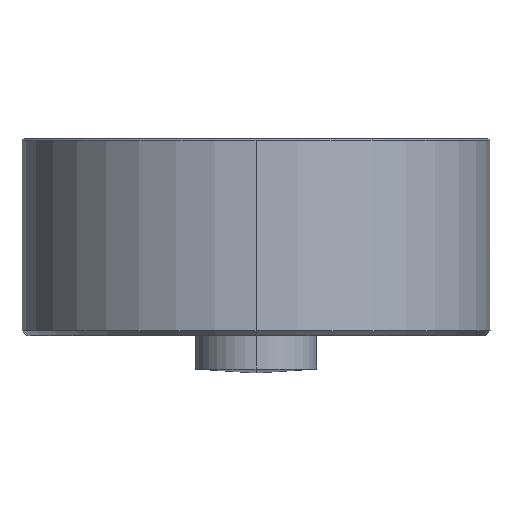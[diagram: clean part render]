
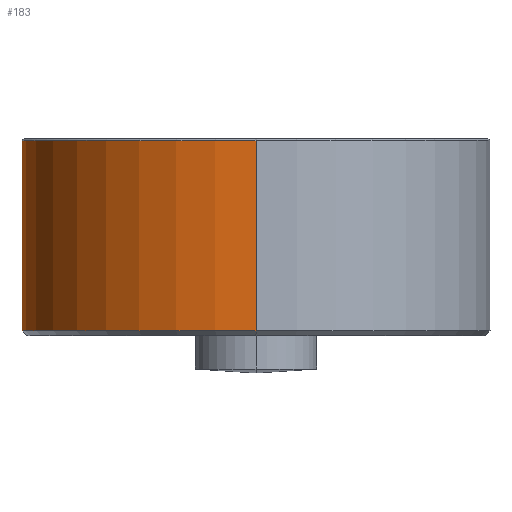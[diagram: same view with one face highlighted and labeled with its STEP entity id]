
A CAD part, left-side view. The second image highlights one B-rep face of the part: STEP entity #183.
In plain terms, the highlighted cylindrical face has radius 25 mm (diameter 50 mm), a partial arc.
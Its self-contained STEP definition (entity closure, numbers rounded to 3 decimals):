
#19 = ORIENTED_EDGE ( 'NONE', *, *, #968, .F. ) ;
#34 = ORIENTED_EDGE ( 'NONE', *, *, #2935, .T. ) ;
#183 = ADVANCED_FACE ( 'NONE', ( #1502 ), #2026, .T. ) ;
#357 = AXIS2_PLACEMENT_3D ( 'NONE', #1015, #3046, #1293 ) ;
#448 = CARTESIAN_POINT ( 'NONE',  ( 25., 0., 21. ) ) ;
#837 = AXIS2_PLACEMENT_3D ( 'NONE', #3474, #2296, #1128 ) ;
#966 = CARTESIAN_POINT ( 'NONE',  ( 23.5, 8.529, 20.8 ) ) ;
#968 = EDGE_CURVE ( 'NONE', #3426, #2894, #1191, .T. ) ;
#974 = ORIENTED_EDGE ( 'NONE', *, *, #2308, .F. ) ;
#1015 = CARTESIAN_POINT ( 'NONE',  ( 0., 0., 3. ) ) ;
#1034 = DIRECTION ( 'NONE',  ( 0., 0., -1. ) ) ;
#1079 = CARTESIAN_POINT ( 'NONE',  ( -25., 0., 20.8 ) ) ;
#1097 = CARTESIAN_POINT ( 'NONE',  ( 23.5, 8.529, 3. ) ) ;
#1128 = DIRECTION ( 'NONE',  ( 1., 0., 0. ) ) ;
#1146 = CARTESIAN_POINT ( 'NONE',  ( 23.5, 8.529, 3. ) ) ;
#1191 = LINE ( 'NONE', #3235, #2663 ) ;
#1259 = AXIS2_PLACEMENT_3D ( 'NONE', #1372, #3074, #1648 ) ;
#1293 = DIRECTION ( 'NONE',  ( 1., 0., 0. ) ) ;
#1372 = CARTESIAN_POINT ( 'NONE',  ( 0., 0., 21. ) ) ;
#1402 = CARTESIAN_POINT ( 'NONE',  ( 25., 0., 0.5 ) ) ;
#1445 = VERTEX_POINT ( 'NONE', #1097 ) ;
#1470 = DIRECTION ( 'NONE',  ( 0., 0., 1. ) ) ;
#1502 = FACE_OUTER_BOUND ( 'NONE', #2934, .T. ) ;
#1589 = CARTESIAN_POINT ( 'NONE',  ( -25., 0., 0.5 ) ) ;
#1648 = DIRECTION ( 'NONE',  ( -1., 0., 0. ) ) ;
#1821 = DIRECTION ( 'NONE',  ( 0., 0., 1. ) ) ;
#2026 = CYLINDRICAL_SURFACE ( 'NONE', #1259, 25. ) ;
#2165 = VERTEX_POINT ( 'NONE', #1402 ) ;
#2185 = VERTEX_POINT ( 'NONE', #966 ) ;
#2228 = CARTESIAN_POINT ( 'NONE',  ( 25., 0., 3. ) ) ;
#2272 = ORIENTED_EDGE ( 'NONE', *, *, #3253, .T. ) ;
#2285 = AXIS2_PLACEMENT_3D ( 'NONE', #3313, #1821, #2766 ) ;
#2296 = DIRECTION ( 'NONE',  ( 0., 0., -1. ) ) ;
#2308 = EDGE_CURVE ( 'NONE', #2408, #1445, #2861, .T. ) ;
#2408 = VERTEX_POINT ( 'NONE', #2228 ) ;
#2521 = CIRCLE ( 'NONE', #2285, 25. ) ;
#2528 = VECTOR ( 'NONE', #1034, 1000. ) ;
#2654 = DIRECTION ( 'NONE',  ( 0., 0., -1. ) ) ;
#2663 = VECTOR ( 'NONE', #2654, 1000. ) ;
#2766 = DIRECTION ( 'NONE',  ( 1., 0., 0. ) ) ;
#2792 = LINE ( 'NONE', #1146, #3393 ) ;
#2861 = CIRCLE ( 'NONE', #357, 25. ) ;
#2879 = CIRCLE ( 'NONE', #837, 25. ) ;
#2894 = VERTEX_POINT ( 'NONE', #1589 ) ;
#2934 = EDGE_LOOP ( 'NONE', ( #974, #34, #2272, #19, #3776, #3591 ) ) ;
#2935 = EDGE_CURVE ( 'NONE', #2408, #2165, #3290, .T. ) ;
#3046 = DIRECTION ( 'NONE',  ( 0., 0., 1. ) ) ;
#3074 = DIRECTION ( 'NONE',  ( 0., 0., -1. ) ) ;
#3098 = EDGE_CURVE ( 'NONE', #1445, #2185, #2792, .T. ) ;
#3235 = CARTESIAN_POINT ( 'NONE',  ( -25., 0., 21. ) ) ;
#3253 = EDGE_CURVE ( 'NONE', #2165, #2894, #2521, .T. ) ;
#3290 = LINE ( 'NONE', #448, #2528 ) ;
#3313 = CARTESIAN_POINT ( 'NONE',  ( 0., 0., 0.5 ) ) ;
#3393 = VECTOR ( 'NONE', #1470, 1000. ) ;
#3426 = VERTEX_POINT ( 'NONE', #1079 ) ;
#3474 = CARTESIAN_POINT ( 'NONE',  ( 0., 0., 20.8 ) ) ;
#3487 = EDGE_CURVE ( 'NONE', #3426, #2185, #2879, .T. ) ;
#3591 = ORIENTED_EDGE ( 'NONE', *, *, #3098, .F. ) ;
#3776 = ORIENTED_EDGE ( 'NONE', *, *, #3487, .T. ) ;
